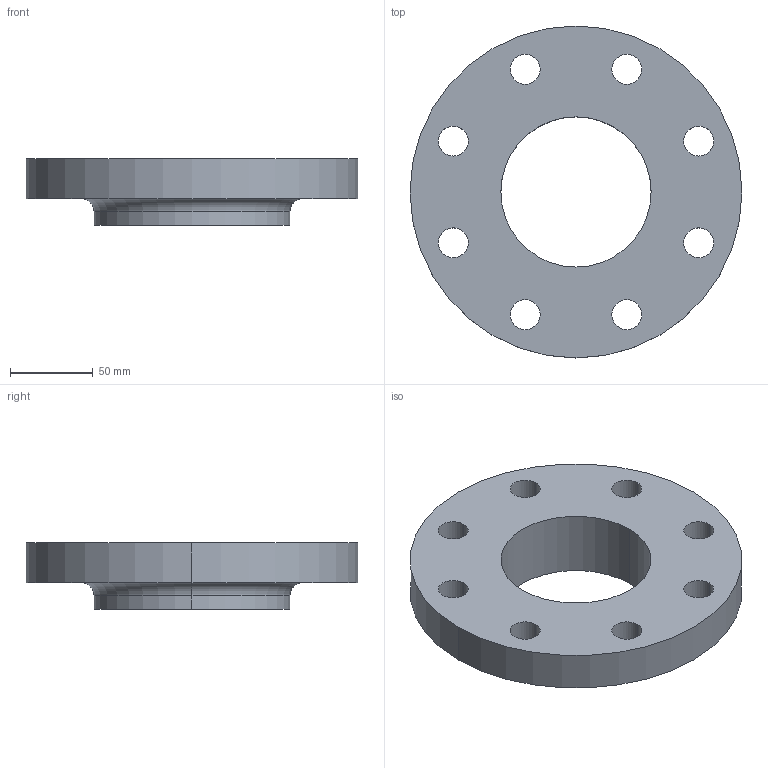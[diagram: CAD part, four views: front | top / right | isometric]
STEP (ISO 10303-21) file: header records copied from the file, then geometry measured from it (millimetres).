
FILE_DESCRIPTION (( 'STEP AP214' ), '1' );
FILE_NAME ('PN40 DN80 Type 12 - Type A Face.STEP', '2019-01-01T19:41:06', ( '' ), ( '' ), 'SwSTEP 2.0', 'SolidWorks 2019', '' );
FILE_SCHEMA (( 'AUTOMOTIVE_DESIGN' ));
Length unit declared in the file: millimetre
Products named in the file (1): PN40 DN80 Type 12 - Type A Face
Bounding box: 200 x 200 x 40 mm (x, y, z)
Volume: 628039.7 mm3; surface area: 87891.6 mm2
Topology: 1 solids, 1 shells, 27 faces, 70 edges, 46 vertices
Faces by surface type: cylinder 22, plane 3, torus 2
Entity records: 926 total; most frequent: DIRECTION 174, CARTESIAN_POINT 144, ORIENTED_EDGE 140, AXIS2_PLACEMENT_3D 76, EDGE_CURVE 70, CIRCLE 48, EDGE_LOOP 46, VERTEX_POINT 46
